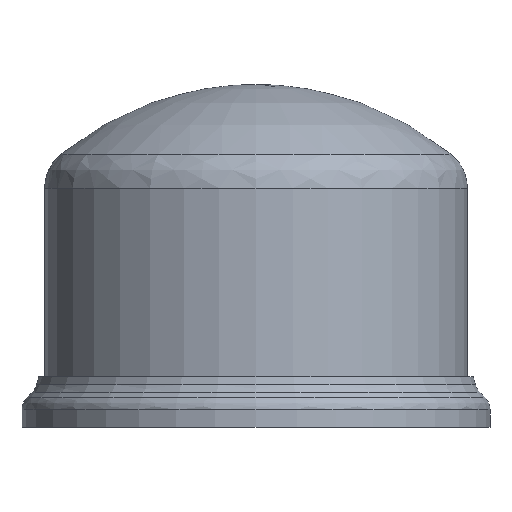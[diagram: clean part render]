
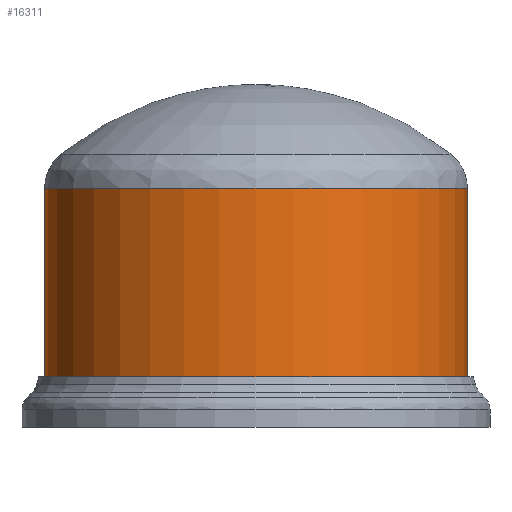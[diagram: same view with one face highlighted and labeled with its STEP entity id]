
A CAD part, front view. The second image highlights one B-rep face of the part: STEP entity #16311.
In plain terms, the highlighted cylindrical face has radius 36 mm (diameter 72 mm), a partial arc.
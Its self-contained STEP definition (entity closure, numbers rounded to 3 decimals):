
#15746=CARTESIAN_POINT(' ',(-36.,0.,8.65));
#15747=VERTEX_POINT(' ',#15746);
#15786=CARTESIAN_POINT(' ',(36.,0.,8.65));
#15787=VERTEX_POINT(' ',#15786);
#15801=CARTESIAN_POINT(' ',(0.,0.,8.65));
#15806=DIRECTION(' ',(0.,-0.,1.));
#15811=DIRECTION(' ',(-1.,0.,0.));
#15816=AXIS2_PLACEMENT_3D(' ',#15801,#15806,#15811);
#15821=CIRCLE('',#15816,36.);
#15826=EDGE_CURVE(' ',#15747,#15787,#15821,.T.);
#15986=CARTESIAN_POINT(' ',(-36.,0.,40.7));
#15991=DIRECTION(' ',(0.,0.,-1.));
#15996=VECTOR(' ',#15991,1.);
#16001=LINE('',#15986,#15996);
#16006=CARTESIAN_POINT(' ',(-36.,0.,40.7));
#16007=VERTEX_POINT(' ',#16006);
#16011=EDGE_CURVE(' ',#16007,#15747,#16001,.T.);
#16046=CARTESIAN_POINT(' ',(36.,0.,40.7));
#16047=VERTEX_POINT(' ',#16046);
#16061=CARTESIAN_POINT(' ',(36.,0.,40.7));
#16066=DIRECTION(' ',(0.,0.,-1.));
#16071=VECTOR(' ',#16066,1.);
#16076=LINE('',#16061,#16071);
#16081=EDGE_CURVE(' ',#16047,#15787,#16076,.T.);
#16226=CARTESIAN_POINT(' ',(0.,0.,22.5));
#16231=DIRECTION(' ',(0.,0.,1.));
#16236=DIRECTION(' ',(-1.,0.,0.));
#16241=AXIS2_PLACEMENT_3D(' ',#16226,#16231,#16236);
#16246=CYLINDRICAL_SURFACE(' ',#16241,36.);
#16251=ORIENTED_EDGE(' ',*,*,#16011,.T.);
#16256=ORIENTED_EDGE(' ',*,*,#15826,.T.);
#16261=ORIENTED_EDGE(' ',*,*,#16081,.F.);
#16266=CARTESIAN_POINT(' ',(0.,0.,40.7));
#16271=DIRECTION(' ',(0.,-0.,1.));
#16276=DIRECTION(' ',(-1.,0.,0.));
#16281=AXIS2_PLACEMENT_3D(' ',#16266,#16271,#16276);
#16286=CIRCLE('',#16281,36.);
#16291=EDGE_CURVE(' ',#16007,#16047,#16286,.T.);
#16296=ORIENTED_EDGE(' ',*,*,#16291,.F.);
#16301=EDGE_LOOP(' ',(#16251,#16256,#16261,#16296));
#16306=FACE_OUTER_BOUND(' ',#16301,.T.);
#16311=ADVANCED_FACE('',(#16306),#16246,.T.);
